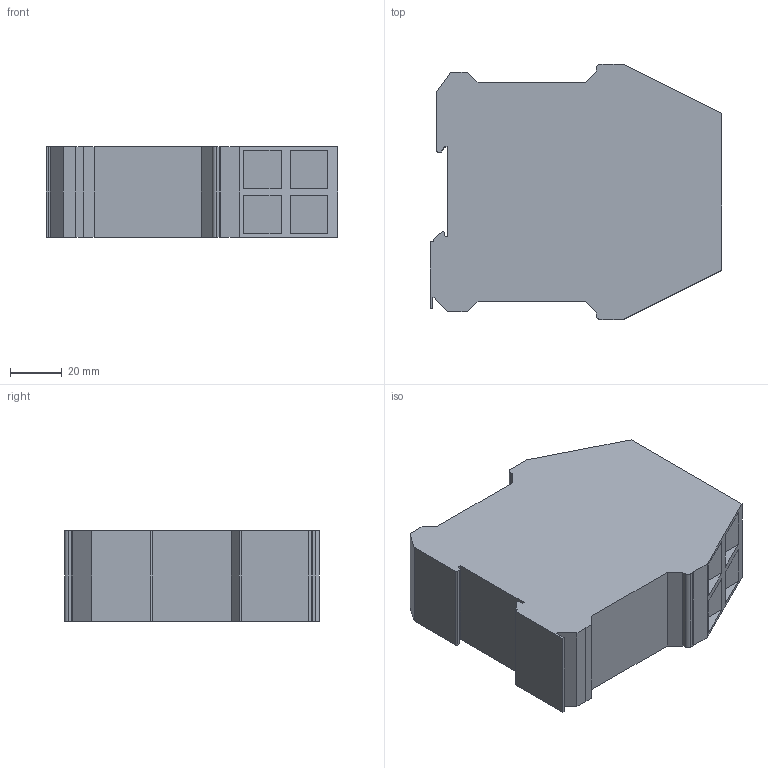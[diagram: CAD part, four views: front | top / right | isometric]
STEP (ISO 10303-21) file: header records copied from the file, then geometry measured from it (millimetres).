
FILE_DESCRIPTION((''),'2;1');
FILE_NAME('M:\INVENTORjob\Konstruktion\MSI\STEP\MSI_s_i_sx_ix_35mm.stp','2007-11-30T10:39:46',('atull'),(''),'Autodesk Inventor 2008','Autodesk Inventor 2008','');
FILE_SCHEMA(('AUTOMOTIVE_DESIGN { 1 0 10303 214 1 1 1 1 }'));
Length unit declared in the file: millimetre
Products named in the file (1): MSI_s_i_sx_ix_35mm
Bounding box: 113.3 x 99 x 35 mm (x, y, z)
Volume: 321942.4 mm3; surface area: 35737.9 mm2
Topology: 1 solids, 1 shells, 125 faces, 273 edges, 182 vertices
Faces by surface type: plane 74, bspline 48, cylinder 3
Entity records: 3619 total; most frequent: CARTESIAN_POINT 1037, ORIENTED_EDGE 498, DIRECTION 459, EDGE_CURVE 249, VECTOR 195, LINE 195, VERTEX_POINT 182, EDGE_LOOP 181
